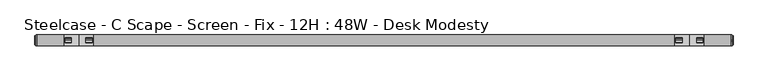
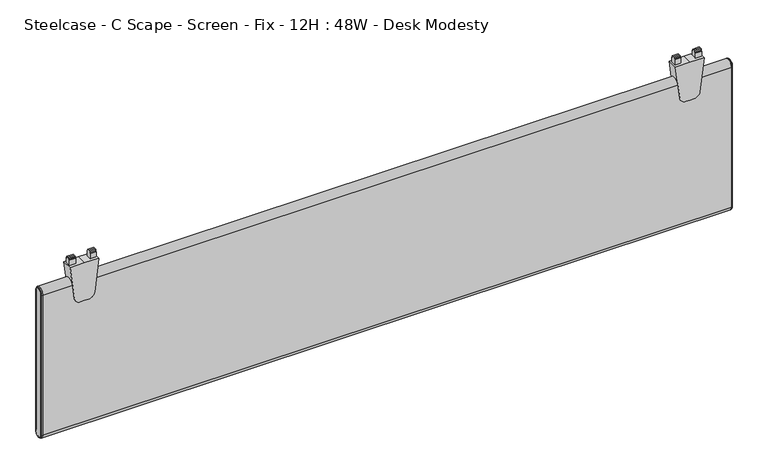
"""IFC4 building model written with IfcOpenShell, lengths in millimetres: furniture geometry, Steelcase - C Scape - Screen - Fix - 12H : 48W - Desk Modesty."""

import ifcopenshell
import ifcopenshell.guid

model = None  # the IFC model being written
_history = None  # IfcOwnerHistory: only IFC2X3 demands one
_inside = {}  # id of a spatial element -> (the spatial element, [elements in it])
_under = {}  # id of a project, library or spatial element -> (it, [spatial elements below it])
_declared = {}  # id of a project -> (the project, [libraries it declares])
_typed = {}  # id of a type object -> (the type object, [elements of that type])
_made_of = {}  # id of a material, layer set ... -> (it, [elements and type objects made of it])


def new_model(schema):
    """Start an empty IFC model of exactly this schema.

    Asked for "IFC4X3", IfcOpenShell would pick the latest addendum, in which some entities
    have other attributes; the version numbers below select the first issue.
    IFC2X3 requires an IfcOwnerHistory on every rooted entity: one is made here for all.
    """
    global model, _history
    if schema == "IFC4X3":
        model = ifcopenshell.file(schema_version=(4, 3, 0, 0))
    else:
        model = ifcopenshell.file(schema=schema)
    _inside.clear()
    _under.clear()
    _declared.clear()
    _typed.clear()
    _made_of.clear()
    _history = None
    if model.schema == "IFC2X3":
        org = make("IfcOrganization", Name="unknown")
        user = make(
            "IfcPersonAndOrganization",
            ThePerson=make("IfcPerson", FamilyName="unknown"),
            TheOrganization=org,
        )
        app = make(
            "IfcApplication",
            ApplicationDeveloper=org,
            Version="unknown",
            ApplicationFullName="unknown",
            ApplicationIdentifier="unknown",
        )
        _history = make(
            "IfcOwnerHistory",
            OwningUser=user,
            OwningApplication=app,
            ChangeAction="ADDED",
            CreationDate=0,
        )
    return model


def make(cls, **values):
    """One entity of the class cls with the attributes given. An attribute that is None is left unset."""
    return model.create_entity(
        cls, **{name: value for name, value in values.items() if value is not None}
    )


def rooted(cls, **values):
    """An entity with a GlobalId (a new one), such as an element, a storey or a relation."""
    return make(cls, GlobalId=ifcopenshell.guid.new(), OwnerHistory=_history, **values)


def si_unit(unit_type, name, prefix=None):
    """IfcSIUnit, for example si_unit("LENGTHUNIT", "METRE", prefix="MILLI")."""
    return make("IfcSIUnit", UnitType=unit_type, Prefix=prefix, Name=name)


def assignment(units):
    """IfcUnitAssignment: the units of a project."""
    return None if units is None else make("IfcUnitAssignment", Units=units)


def point(xyz):
    """IfcCartesianPoint."""
    return None if xyz is None else make("IfcCartesianPoint", Coordinates=xyz)


def direction(xyz):
    """IfcDirection."""
    return None if xyz is None else make("IfcDirection", DirectionRatios=xyz)


def frame(location, z_axis=None, x_axis=None):
    """IfcAxis2Placement3D, a coordinate frame: its origin and axes. An axis left out is left unset."""
    return make(
        "IfcAxis2Placement3D",
        Location=point(location),
        Axis=direction(z_axis),
        RefDirection=direction(x_axis),
    )


def frame_2d(location, x_axis=None):
    """IfcAxis2Placement2D, a coordinate frame in the plane: its origin and x axis."""
    return make(
        "IfcAxis2Placement2D", Location=point(location), RefDirection=direction(x_axis)
    )


def origin():
    """The frame at (0, 0, 0) with its axes left unset."""
    return frame((0.0, 0.0, 0.0))


def place(relative_to, where):
    """IfcLocalPlacement: puts the frame where relative to a parent placement (None: the world)."""
    return make(
        "IfcLocalPlacement", PlacementRelTo=relative_to, RelativePlacement=where
    )


def context(
    kind, dimensions, precision=None, world=None, true_north=None, identifier=None
):
    """IfcGeometricRepresentationContext, for example the 3D "Model" context."""
    return make(
        "IfcGeometricRepresentationContext",
        ContextIdentifier=identifier,
        ContextType=kind,
        CoordinateSpaceDimension=dimensions,
        Precision=precision,
        WorldCoordinateSystem=world,
        TrueNorth=true_north,
    )


def project(units=None, contexts=None):
    """IfcProject with its units and contexts."""
    return rooted(
        "IfcProject",
        Name="project",
        RepresentationContexts=contexts,
        UnitsInContext=assignment(units),
    )


def spatial(cls, under=None, at=None, **own):
    """A site, building, storey or space (cls), placed at a placement, below another one or the project."""
    s = rooted(cls, ObjectPlacement=at, **own)
    if under is not None:
        _under.setdefault(under.id(), (under, []))[1].append(s)
    return s


def polyline(points):
    """IfcPolyline through the points."""
    return make("IfcPolyline", Points=[point(p) for p in points])


def circle_curve(where, radius):
    """IfcCircle in the frame where."""
    return make("IfcCircle", Position=where, Radius=radius)


def ellipse_curve(where, semi_axis1, semi_axis2):
    """IfcEllipse in the frame where."""
    return make(
        "IfcEllipse", Position=where, SemiAxis1=semi_axis1, SemiAxis2=semi_axis2
    )


def trimmed(basis, trim1, trim2, sense, master):
    """IfcTrimmedCurve: the piece of a basis curve between two trims."""
    return make(
        "IfcTrimmedCurve",
        BasisCurve=basis,
        Trim1=trim1,
        Trim2=trim2,
        SenseAgreement=sense,
        MasterRepresentation=master,
    )


def segment(curve, same_sense, transition):
    """IfcCompositeCurveSegment."""
    return make(
        "IfcCompositeCurveSegment",
        Transition=transition,
        SameSense=same_sense,
        ParentCurve=curve,
    )


def composite_curve(segments, self_intersect=None):
    """IfcCompositeCurve: segments joined end to end."""
    return make("IfcCompositeCurve", Segments=segments, SelfIntersect=self_intersect)


def outline(outer, holes=None, kind="AREA"):
    """IfcArbitraryClosedProfileDef: a profile drawn as a closed curve; with holes, ...WithVoids."""
    if holes is None:
        return make("IfcArbitraryClosedProfileDef", ProfileType=kind, OuterCurve=outer)
    return make(
        "IfcArbitraryProfileDefWithVoids",
        ProfileType=kind,
        OuterCurve=outer,
        InnerCurves=holes,
    )


def extrude(swept, where, along, depth):
    """IfcExtrudedAreaSolid: the profile swept, set in the frame where, extruded along a direction by depth."""
    return make(
        "IfcExtrudedAreaSolid",
        SweptArea=swept,
        Position=where,
        ExtrudedDirection=direction(along),
        Depth=depth,
    )


def shape(context_of_items, identifier, shape_type, items):
    """IfcShapeRepresentation: the items that make up one representation, for example the "Body"."""
    return make(
        "IfcShapeRepresentation",
        ContextOfItems=context_of_items,
        RepresentationIdentifier=identifier,
        RepresentationType=shape_type,
        Items=items,
    )


def source(mapping_origin, context_of_items, identifier, shape_type, items):
    """IfcRepresentationMap: a shape defined once, which mapped items show again and again."""
    return make(
        "IfcRepresentationMap",
        MappingOrigin=mapping_origin,
        MappedRepresentation=shape(context_of_items, identifier, shape_type, items),
    )


def transform(
    local_origin,
    x_axis=None,
    y_axis=None,
    z_axis=None,
    scale=None,
    scale2=None,
    scale3=None,
    uniform=True,
):
    """IfcCartesianTransformationOperator3D, or its non-uniform kind. x_axis, y_axis, z_axis: its Axis1, 2, 3."""
    if uniform:
        return make(
            "IfcCartesianTransformationOperator3D",
            Axis1=direction(x_axis),
            Axis2=direction(y_axis),
            LocalOrigin=point(local_origin),
            Scale=scale,
            Axis3=direction(z_axis),
        )
    return make(
        "IfcCartesianTransformationOperator3DnonUniform",
        Axis1=direction(x_axis),
        Axis2=direction(y_axis),
        LocalOrigin=point(local_origin),
        Scale=scale,
        Axis3=direction(z_axis),
        Scale2=scale2,
        Scale3=scale3,
    )


def mapped(mapping_source, mapping_target):
    """IfcMappedItem: shows the shape of a source again, moved by a transform."""
    return make(
        "IfcMappedItem", MappingSource=mapping_source, MappingTarget=mapping_target
    )


def made_of(thing, what):
    """Note that an element or type object is made of a material, layer set ...; save() writes the relation."""
    if what is not None:
        _made_of.setdefault(what.id(), (what, []))[1].append(thing)
    return thing


def element(
    cls,
    number,
    at=None,
    inside=None,
    cuts=None,
    type_object=None,
    material=None,
    context=None,
    identifier="Body",
    shape_type=None,
    held_by="IfcProductDefinitionShape",
    body=None,
    shapes=None,
    **own,
):
    """One element of the class cls, such as IfcWall. Its Tag is "e" and its number.

    at: its placement. inside: the storey or other place that contains it. cuts: it is an
    opening in that element (IfcRelVoidsElement). A single representation is given by context,
    identifier, shape_type and body (its items); several are given by shapes. held_by: the class
    of the entity that holds the representations. save() writes the other relations.
    """
    e = rooted(cls, Tag="e%d" % number, ObjectPlacement=at, **own)
    if body is not None:
        shapes = [shape(context, identifier, shape_type, body)]
    if shapes is not None:
        e.Representation = make(held_by, Representations=shapes)
    if inside is not None:
        _inside.setdefault(inside.id(), (inside, []))[1].append(e)
    if cuts is not None:
        rooted(
            "IfcRelVoidsElement", RelatingBuildingElement=cuts, RelatedOpeningElement=e
        )
    if type_object is not None:
        _typed.setdefault(type_object.id(), (type_object, []))[1].append(e)
    return made_of(e, material)


def aggregate(whole, parts):
    """IfcRelAggregates: a whole, such as a stair, and the parts it consists of."""
    return rooted("IfcRelAggregates", RelatingObject=whole, RelatedObjects=parts)


def save(model, path):
    """Write the relations noted so far, then the file.

    IfcRelAggregates (storeys below a building ...), IfcRelContainedInSpatialStructure (elements
    in a storey), IfcRelDefinesByType, IfcRelAssociatesMaterial and IfcRelDeclares: one each for
    every whole, place, type object, material and project.
    """
    for whole, parts in _under.values():
        aggregate(whole, parts)
    for where, things in _inside.values():
        rooted(
            "IfcRelContainedInSpatialStructure",
            RelatedElements=things,
            RelatingStructure=where,
        )
    for kind, things in _typed.values():
        rooted("IfcRelDefinesByType", RelatedObjects=things, RelatingType=kind)
    for what, things in _made_of.values():
        rooted("IfcRelAssociatesMaterial", RelatedObjects=things, RelatingMaterial=what)
    for by, libraries in _declared.values():
        rooted("IfcRelDeclares", RelatingContext=by, RelatedDefinitions=libraries)
    model.write(path)


def plane_surface(at):
    """IfcPlane: the flat surface through the origin of the frame at, square to its z axis."""
    return make("IfcPlane", Position=at)


def cylinder_surface(at, radius):
    """IfcCylindricalSurface: all points at the distance radius from the z axis of the frame at."""
    return make("IfcCylindricalSurface", Position=at, Radius=radius)


def revolved_surface(curve, axis_point, axis_direction):
    """IfcSurfaceOfRevolution: the curve turned about the line through axis_point along axis_direction."""
    return make(
        "IfcSurfaceOfRevolution",
        SweptCurve=make("IfcArbitraryOpenProfileDef", ProfileType="CURVE", Curve=curve),
        AxisPosition=make("IfcAxis1Placement", Location=point(axis_point), Axis=direction(axis_direction)),
    )


def advanced_brep(points, edges, surfaces, faces):
    """IfcAdvancedBrep: a solid bounded by faces that lie on surfaces and meet in shared edges.

    An edge is (start, end): straight between two places in points (the first is 0);
    or (start, end, curve); or (start, end, curve, False) where it runs against its curve.
    A face is (place in surfaces, loops), or (place, loops, False) where it looks against
    its surface's normal. A loop lists edges by number (the first is 1), with a minus sign
    where the edge is run from its end to its start. The first loop is the outer one.
    """
    corners = [point(p) for p in points]
    vertices = [make("IfcVertexPoint", VertexGeometry=c) for c in corners]
    made = []
    for start, end, *more in edges:
        made.append(
            make(
                "IfcEdgeCurve",
                EdgeStart=vertices[start],
                EdgeEnd=vertices[end],
                EdgeGeometry=more[0] if more else make("IfcPolyline", Points=[corners[start], corners[end]]),
                SameSense=more[1] if len(more) > 1 else True,
            )
        )
    hull = []
    for where, loops, *sense in faces:
        bounds = []
        for j, loop in enumerate(loops):
            ring = [make("IfcOrientedEdge", EdgeElement=made[abs(k) - 1], Orientation=k > 0) for k in loop]
            bounds.append(
                make(
                    "IfcFaceOuterBound" if j == 0 else "IfcFaceBound",
                    Bound=make("IfcEdgeLoop", EdgeList=ring),
                    Orientation=True,
                )
            )
        hull.append(make("IfcAdvancedFace", Bounds=bounds, FaceSurface=surfaces[where], SameSense=sense[0] if sense else True))
    return make("IfcAdvancedBrep", Outer=make("IfcClosedShell", CfsFaces=hull))


def steelcase_c_scape_screen_fix_12h_48w_desk_modesty_aa4d267f(model_context):
    return source(origin(), model_context, "Body", "SolidModel", [
        extrude(outline(composite_curve([segment(polyline([(697.572888, 101.4730434), (697.572888, 76.2001674), (697.572888, 50.9272915), (637.2477579, 58.3341853)]), True, "CONTINUOUS"), segment(trimmed(circle_curve(frame_2d((638.5696282, 69.1001018)), 10.8467645), [point((637.2477579, 58.3341853))], [point((627.7228638, 69.1001018))], False, "CARTESIAN"), True, "CONTINUOUS"), segment(polyline([(627.7228638, 69.1001018), (627.7228638, 76.2001674), (627.7228638, 83.300233)]), True, "CONTINUOUS"), segment(trimmed(circle_curve(frame_2d((638.5696282, 83.300233)), 10.8467645), [point((627.7228638, 83.300233))], [point((637.2477579, 94.0661495))], False, "CARTESIAN"), True, "CONTINUOUS"), segment(polyline([(637.2477579, 94.0661495), (697.572888, 101.4730434)]), True, "CONTINUOUS")], self_intersect=False)), frame((0.0, -9.525, 0.0), z_axis=(0.0, 1.0, 0.0), x_axis=(0.0, 0.0, 1.0)), (0.0, 0.0, 1.0), 19.05),
        extrude(outline(polyline([(-4.5465975, 697.572888), (-4.5465975, 707.4788967), (-4.0139265, 708.3653252), (-2.9972008, 708.3653252), (-2.9972008, 710.6005812), (0.0, 710.692), (2.9972008, 710.6005812), (2.9972008, 708.3653252), (4.0139265, 708.3653252), (4.5465975, 707.4788967), (4.5465975, 697.572888), (0.0, 697.572888), (-4.5465975, 697.572888)])), frame((88.9267162, 0.0, 0.0), z_axis=(1.0, 0.0, 0.0), x_axis=(0.0, 1.0, 0.0)), (0.0, 0.0, 1.0), 10.7813187),
        extrude(outline(polyline([(-4.5465975, 697.572888), (-4.5465975, 707.4788967), (-4.0139265, 708.3653252), (-2.9972008, 708.3653252), (-2.9972008, 710.6005812), (0.0, 710.692), (2.9972008, 710.6005812), (2.9972008, 708.3653252), (4.0139265, 708.3653252), (4.5465975, 707.4788967), (4.5465975, 697.572888), (0.0, 697.572888), (-4.5465975, 697.572888)])), frame((52.6923, 0.0, 0.0), z_axis=(1.0, 0.0, 0.0), x_axis=(0.0, 1.0, 0.0)), (0.0, 0.0, 1.0), 10.7813187),
        extrude(outline(composite_curve([segment(polyline([(697.572888, 1167.5107132), (697.572888, 1142.2378372), (697.572888, 1116.9649612), (637.2477579, 1124.3718551)]), True, "CONTINUOUS"), segment(trimmed(circle_curve(frame_2d((638.5696282, 1135.1377716)), 10.8467645), [point((637.2477579, 1124.3718551))], [point((627.7228638, 1135.1377716))], False, "CARTESIAN"), True, "CONTINUOUS"), segment(polyline([(627.7228638, 1135.1377716), (627.7228638, 1142.2378372), (627.7228638, 1149.3379028)]), True, "CONTINUOUS"), segment(trimmed(circle_curve(frame_2d((638.5696282, 1149.3379028)), 10.8467645), [point((627.7228638, 1149.3379028))], [point((637.2477579, 1160.1038193))], False, "CARTESIAN"), True, "CONTINUOUS"), segment(polyline([(637.2477579, 1160.1038193), (697.572888, 1167.5107132)]), True, "CONTINUOUS")], self_intersect=False)), frame((0.0, -9.525, 0.0), z_axis=(0.0, 1.0, 0.0), x_axis=(0.0, 0.0, 1.0)), (0.0, 0.0, 1.0), 19.05),
        extrude(outline(polyline([(-4.5465975, 697.572888), (-4.5465975, 707.4788967), (-4.0139265, 708.3653252), (-2.9972008, 708.3653252), (-2.9972008, 710.6005812), (0.0, 710.692), (2.9972008, 710.6005812), (2.9972008, 708.3653252), (4.0139265, 708.3653252), (4.5465975, 707.4788967), (4.5465975, 697.572888), (0.0, 697.572888), (-4.5465975, 697.572888)])), frame((1154.964386, 0.0, 0.0), z_axis=(1.0, 0.0, 0.0), x_axis=(0.0, 1.0, 0.0)), (0.0, 0.0, 1.0), 10.7813187),
        extrude(outline(polyline([(-4.5465975, 697.572888), (-4.5465975, 707.4788967), (-4.0139265, 708.3653252), (-2.9972008, 708.3653252), (-2.9972008, 710.6005812), (0.0, 710.692), (2.9972008, 710.6005812), (2.9972008, 708.3653252), (4.0139265, 708.3653252), (4.5465975, 707.4788967), (4.5465975, 697.572888), (0.0, 697.572888), (-4.5465975, 697.572888)])), frame((1118.7299698, 0.0, 0.0), z_axis=(1.0, 0.0, 0.0), x_axis=(0.0, 1.0, 0.0)), (0.0, 0.0, 1.0), 10.7813187),
        advanced_brep(
        [(1215.6486613, -9.525, 663.067), (1215.6486613, 9.525, 663.067), (1215.6486613, 9.525, 402.717), (1215.6486613, -9.525, 402.717), (1218.4426613, 7.4929583, 663.067), (1218.4426613, -7.4929583, 663.067), (1218.4426613, -7.4929583, 402.717), (1218.4426613, 7.4929583, 402.717), (1217.9346545, -8.0009651, 663.067), (1217.9346545, 8.0009651, 663.067), (1216.6646613, 8.0009651, 663.067), (1216.6646613, -8.0009651, 663.067), (1216.6646613, -8.8204932, 663.067), (1216.6646613, 8.8204932, 663.067), (1216.6646613, -8.0009651, 402.717), (1217.9346545, -8.0009651, 402.717), (1216.6646613, -8.8204932, 402.717), (1216.6646613, 8.0009651, 402.717), (1217.9346545, 8.0009651, 402.717), (1216.6646613, 8.8204932, 402.717)],
        [
            (0, 1, circle_curve(frame((1215.6486613, 0.0, 663.067), z_axis=(-1.0, 0.0, 0.0), x_axis=(0.0, 1.0, 0.0)), 9.525)),
            (1, 2),
            (2, 3, circle_curve(frame((1215.6486613, 0.0, 402.717), z_axis=(-1.0, 0.0, 0.0), x_axis=(0.0, -1.0, 0.0)), 9.525)),
            (3, 0),
            (4, 5, circle_curve(frame((1218.4426613, 0.0, 663.067), z_axis=(1.0, 0.0, 0.0), x_axis=(0.0, 1.0, 0.0)), 7.4929583)),
            (5, 6),
            (6, 7, circle_curve(frame((1218.4426613, 0.0, 402.717), z_axis=(1.0, 0.0, 0.0), x_axis=(0.0, -1.0, 0.0)), 7.4929583)),
            (7, 4),
            (8, 9, circle_curve(frame((1217.9346545, 0.0, 663.067), z_axis=(-1.0, 0.0, 0.0), x_axis=(0.0, 1.0, 0.0)), 8.0009651)),
            (9, 10),
            (10, 11, circle_curve(frame((1216.6646613, 0.0, 663.067), z_axis=(1.0, 0.0, 0.0), x_axis=(0.0, 1.0, 0.0)), 8.0009651)),
            (11, 8),
            (8, 5, circle_curve(frame((1217.9346545, -7.4929583, 663.067), z_axis=(0.0, 0.0, 1.0), x_axis=(0.0, -1.0, 0.0)), 0.5080068)),
            (4, 9, circle_curve(frame((1217.9346545, 7.4929583, 663.067), z_axis=(0.0, 0.0, 1.0), x_axis=(0.0, 1.0, 0.0)), 0.5080068)),
            (12, 13, circle_curve(frame((1216.6646613, 0.0, 663.067), z_axis=(-1.0, 0.0, 0.0), x_axis=(0.0, 1.0, 0.0)), 8.8204932)),
            (13, 1, circle_curve(frame((1215.5806211, 8.3420139, 663.067), z_axis=(0.0, 0.0, 1.0), x_axis=(0.0, 1.0, 0.0)), 1.1849411)),
            (0, 12, circle_curve(frame((1215.5806211, -8.3420139, 663.067), z_axis=(0.0, 0.0, 1.0), x_axis=(0.0, -1.0, 0.0)), 1.1849411)),
            (11, 14),
            (14, 15),
            (15, 8),
            (15, 6, circle_curve(frame((1217.9346545, -7.4929583, 402.717), z_axis=(0.0, 0.0, 1.0), x_axis=(0.0, -1.0, 0.0)), 0.5080068)),
            (3, 16, circle_curve(frame((1215.5806211, -8.3420139, 402.717), z_axis=(0.0, 0.0, 1.0), x_axis=(0.0, -1.0, 0.0)), 1.1849411)),
            (16, 12),
            (14, 17, circle_curve(frame((1216.6646613, 0.0, 402.717), z_axis=(1.0, 0.0, 0.0), x_axis=(0.0, -1.0, 0.0)), 8.0009651)),
            (17, 18),
            (18, 15, circle_curve(frame((1217.9346545, 0.0, 402.717), z_axis=(-1.0, 0.0, 0.0), x_axis=(0.0, -1.0, 0.0)), 8.0009651)),
            (18, 7, circle_curve(frame((1217.9346545, 7.4929583, 402.717), z_axis=(0.0, 0.0, -1.0), x_axis=(0.0, 1.0, 0.0)), 0.5080068)),
            (2, 19, circle_curve(frame((1215.5806211, 8.3420139, 402.717), z_axis=(0.0, 0.0, -1.0), x_axis=(0.0, 1.0, 0.0)), 1.1849411)),
            (19, 16, circle_curve(frame((1216.6646613, 0.0, 402.717), z_axis=(-1.0, 0.0, 0.0), x_axis=(0.0, -1.0, 0.0)), 8.8204932)),
            (9, 18),
            (17, 10),
            (13, 19),
        ],
        [
            plane_surface(frame((1215.6486613, -6.3509705, 663.067), z_axis=(-1.0, 0.0, 0.0), x_axis=(0.0, 0.0, 1.0))),
            plane_surface(frame((1218.4426613, -6.3509705, 663.067), z_axis=(1.0, 0.0, 0.0), x_axis=(0.0, 0.0, -1.0))),
            cylinder_surface(frame((1215.6486613, 0.0, 663.067), z_axis=(1.0, 0.0, 0.0), x_axis=(0.0, 1.0, 0.0)), 8.0009651),
            revolved_surface(trimmed(ellipse_curve(frame((1217.9346545, 7.4929583, 663.067), z_axis=(0.0, 0.0, -1.0), x_axis=(0.0, 1.0, 0.0)), 0.5080068, 0.5080068), [point((1217.9346545, 8.0009651, 663.067))], [point((1218.4426613, 7.4929583, 663.067))], True, "CARTESIAN"), (1215.6486613, 0.0, 663.067), (1.0, 0.0, 0.0)),
            revolved_surface(trimmed(ellipse_curve(frame((1215.5806211, 8.3420139, 663.067), z_axis=(0.0, 0.0, -1.0), x_axis=(0.0, 1.0, 0.0)), 1.1849411, 1.1849411), [point((1215.6486613, 9.525, 663.067))], [point((1216.6646613, 8.8204932, 663.067))], True, "CARTESIAN"), (1215.6486613, 0.0, 663.067), (1.0, 0.0, 0.0)),
            plane_surface(frame((1216.6646613, -8.0009651, 663.067), z_axis=(0.0, -1.0, 0.0), x_axis=(0.0, 0.0, -1.0))),
            cylinder_surface(frame((1217.9346545, -7.4929583, 663.067), z_axis=(0.0, 0.0, 1.0), x_axis=(0.0, -1.0, 0.0)), 0.5080068),
            cylinder_surface(frame((1215.5806211, -8.3420139, 663.067), z_axis=(0.0, 0.0, 1.0), x_axis=(0.0, -1.0, 0.0)), 1.1849411),
            cylinder_surface(frame((1215.6486613, 0.0, 402.717), z_axis=(1.0, 0.0, 0.0), x_axis=(0.0, -1.0, 0.0)), 8.0009651),
            revolved_surface(trimmed(ellipse_curve(frame((1217.9346545, -7.4929583, 402.717), z_axis=(0.0, 0.0, 1.0), x_axis=(0.0, -1.0, 0.0)), 0.5080068, 0.5080068), [point((1217.9346545, -8.0009651, 402.717))], [point((1218.4426613, -7.4929583, 402.717))], True, "CARTESIAN"), (1215.6486613, 0.0, 402.717), (1.0, 0.0, 0.0)),
            revolved_surface(trimmed(ellipse_curve(frame((1215.5806211, -8.3420139, 402.717), z_axis=(0.0, 0.0, 1.0), x_axis=(0.0, -1.0, 0.0)), 1.1849411, 1.1849411), [point((1215.6486613, -9.525, 402.717))], [point((1216.6646613, -8.8204932, 402.717))], True, "CARTESIAN"), (1215.6486613, 0.0, 402.717), (1.0, 0.0, 0.0)),
            plane_surface(frame((1216.6646613, 8.0009651, 402.717), z_axis=(0.0, 1.0, 0.0), x_axis=(0.0, 0.0, 1.0))),
            cylinder_surface(frame((1217.9346545, 7.4929583, 402.717), z_axis=(0.0, 0.0, -1.0), x_axis=(0.0, 1.0, 0.0)), 0.5080068),
            cylinder_surface(frame((1215.5806211, 8.3420139, 402.717), z_axis=(0.0, 0.0, -1.0), x_axis=(0.0, 1.0, 0.0)), 1.1849411),
            plane_surface(frame((1216.6646613, 8.8204932, 402.717), z_axis=(1.0, 0.0, 0.0), x_axis=(0.0, 0.0, 1.0))),
        ],
        [
            (0, [[1, 2, 3, 4]]),
            (1, [[5, 6, 7, 8]]),
            (2, [[9, 10, 11, 12]]),
            (3, [[-9, 13, -5, 14]]),
            (4, [[15, 16, -1, 17]]),
            (5, [[-12, 18, 19, 20]]),
            (6, [[-13, -20, 21, -6]]),
            (7, [[-17, -4, 22, 23]]),
            (8, [[-19, 24, 25, 26]]),
            (9, [[-21, -26, 27, -7]]),
            (10, [[-22, -3, 28, 29]]),
            (11, [[-10, 30, -25, 31]]),
            (12, [[-14, -8, -27, -30]]),
            (13, [[-16, 32, -28, -2]]),
            (14, [[-15, -23, -29, -32], [-11, -31, -24, -18]]),
        ],
    ),
        advanced_brep(
        [(2.7940155, 9.525, 663.067), (2.7940155, -9.525, 663.067), (2.7940155, -9.525, 402.717), (2.7940155, 9.525, 402.717), (0.0, -7.4929583, 663.067), (0.0, 7.4929583, 663.067), (0.0, 7.4929583, 402.717), (0.0, -7.4929583, 402.717), (1.778, 8.8204932, 663.067), (1.778, -8.8204932, 663.067), (0.5080068, -8.0009651, 663.067), (0.5080068, 8.0009651, 663.067), (1.778, -8.0009651, 663.067), (1.778, 8.0009651, 663.067), (1.778, -8.8204932, 402.717), (0.5080068, -8.0009651, 402.717), (1.778, -8.0009651, 402.717), (1.778, 8.8204932, 402.717), (0.5080068, 8.0009651, 402.717), (1.778, 8.0009651, 402.717)],
        [
            (0, 1, circle_curve(frame((2.7940155, 0.0, 663.067), z_axis=(1.0, 0.0, 0.0), x_axis=(0.0, 1.0, 0.0)), 9.525)),
            (1, 2),
            (2, 3, circle_curve(frame((2.7940155, 0.0, 402.717), z_axis=(1.0, 0.0, 0.0), x_axis=(0.0, -1.0, 0.0)), 9.525)),
            (3, 0),
            (4, 5, circle_curve(frame((0.0, 0.0, 663.067), z_axis=(-1.0, 0.0, 0.0), x_axis=(0.0, 1.0, 0.0)), 7.4929583)),
            (5, 6),
            (6, 7, circle_curve(frame((0.0, 0.0, 402.717), z_axis=(-1.0, 0.0, 0.0), x_axis=(0.0, -1.0, 0.0)), 7.4929583)),
            (7, 4),
            (0, 8, circle_curve(frame((2.8620402, 8.3420139, 663.067), z_axis=(0.0, 0.0, 1.0), x_axis=(0.0, -1.0, 0.0)), 1.1849411)),
            (8, 9, circle_curve(frame((1.778, 0.0, 663.067), z_axis=(1.0, 0.0, 0.0), x_axis=(0.0, 1.0, 0.0)), 8.8204932)),
            (9, 1, circle_curve(frame((2.8620402, -8.3420139, 663.067), z_axis=(0.0, 0.0, 1.0), x_axis=(0.0, 1.0, 0.0)), 1.1849411)),
            (10, 11, circle_curve(frame((0.5080068, 0.0, 663.067), z_axis=(-1.0, 0.0, 0.0), x_axis=(0.0, 1.0, 0.0)), 8.0009651)),
            (11, 5, circle_curve(frame((0.5080068, 7.4929583, 663.067), z_axis=(0.0, 0.0, 1.0), x_axis=(0.0, -1.0, 0.0)), 0.5080068)),
            (4, 10, circle_curve(frame((0.5080068, -7.4929583, 663.067), z_axis=(0.0, 0.0, 1.0), x_axis=(0.0, 1.0, 0.0)), 0.5080068)),
            (10, 12),
            (12, 13, circle_curve(frame((1.778, 0.0, 663.067), z_axis=(-1.0, 0.0, 0.0), x_axis=(0.0, 1.0, 0.0)), 8.0009651)),
            (13, 11),
            (9, 14),
            (14, 2, circle_curve(frame((2.8620402, -8.3420139, 402.717), z_axis=(0.0, 0.0, 1.0), x_axis=(0.0, 1.0, 0.0)), 1.1849411)),
            (7, 15, circle_curve(frame((0.5080068, -7.4929583, 402.717), z_axis=(0.0, 0.0, 1.0), x_axis=(0.0, 1.0, 0.0)), 0.5080068)),
            (15, 10),
            (15, 16),
            (16, 12),
            (14, 17, circle_curve(frame((1.778, 0.0, 402.717), z_axis=(1.0, 0.0, 0.0), x_axis=(0.0, -1.0, 0.0)), 8.8204932)),
            (17, 3, circle_curve(frame((2.8620402, 8.3420139, 402.717), z_axis=(0.0, 0.0, -1.0), x_axis=(0.0, -1.0, 0.0)), 1.1849411)),
            (6, 18, circle_curve(frame((0.5080068, 7.4929583, 402.717), z_axis=(0.0, 0.0, -1.0), x_axis=(0.0, -1.0, 0.0)), 0.5080068)),
            (18, 15, circle_curve(frame((0.5080068, 0.0, 402.717), z_axis=(-1.0, 0.0, 0.0), x_axis=(0.0, -1.0, 0.0)), 8.0009651)),
            (18, 19),
            (19, 16, circle_curve(frame((1.778, 0.0, 402.717), z_axis=(-1.0, 0.0, 0.0), x_axis=(0.0, -1.0, 0.0)), 8.0009651)),
            (8, 17),
            (19, 13),
            (11, 18),
        ],
        [
            plane_surface(frame((2.7940155, -6.3509705, 663.067), z_axis=(1.0, 0.0, 0.0), x_axis=(0.0, 0.0, -1.0))),
            plane_surface(frame((0.0, -6.3509705, 663.067), z_axis=(-1.0, 0.0, 0.0), x_axis=(0.0, 0.0, 1.0))),
            revolved_surface(trimmed(ellipse_curve(frame((2.8620402, 8.3420139, 663.067), z_axis=(0.0, 0.0, -1.0), x_axis=(0.0, -1.0, 0.0)), 1.1849411, 1.1849411), [point((1.778, 8.8204932, 663.067))], [point((2.794, 9.525, 663.067))], True, "CARTESIAN"), (2.794, 0.0, 663.067), (1.0, 0.0, 0.0)),
            revolved_surface(trimmed(ellipse_curve(frame((0.5080068, 7.4929583, 663.067), z_axis=(0.0, 0.0, -1.0), x_axis=(0.0, -1.0, 0.0)), 0.5080068, 0.5080068), [point((0.0, 7.4929583, 663.067))], [point((0.5080068, 8.0009651, 663.067))], True, "CARTESIAN"), (2.794, 0.0, 663.067), (1.0, 0.0, 0.0)),
            cylinder_surface(frame((2.794, 0.0, 663.067), z_axis=(1.0, 0.0, 0.0), x_axis=(0.0, 1.0, 0.0)), 8.0009651),
            cylinder_surface(frame((2.8620402, -8.3420139, 663.067), z_axis=(0.0, 0.0, 1.0), x_axis=(0.0, 1.0, 0.0)), 1.1849411),
            cylinder_surface(frame((0.5080068, -7.4929583, 663.067), z_axis=(0.0, 0.0, 1.0), x_axis=(0.0, 1.0, 0.0)), 0.5080068),
            plane_surface(frame((0.5080068, -8.0009651, 663.067), z_axis=(0.0, -1.0, 0.0), x_axis=(0.0, 0.0, -1.0))),
            revolved_surface(trimmed(ellipse_curve(frame((2.8620402, -8.3420139, 402.717), z_axis=(0.0, 0.0, 1.0), x_axis=(0.0, 1.0, 0.0)), 1.1849411, 1.1849411), [point((1.778, -8.8204932, 402.717))], [point((2.794, -9.525, 402.717))], True, "CARTESIAN"), (2.794, 0.0, 402.717), (1.0, 0.0, 0.0)),
            revolved_surface(trimmed(ellipse_curve(frame((0.5080068, -7.4929583, 402.717), z_axis=(0.0, 0.0, 1.0), x_axis=(0.0, 1.0, 0.0)), 0.5080068, 0.5080068), [point((0.0, -7.4929583, 402.717))], [point((0.5080068, -8.0009651, 402.717))], True, "CARTESIAN"), (2.794, 0.0, 402.717), (1.0, 0.0, 0.0)),
            cylinder_surface(frame((2.794, 0.0, 402.717), z_axis=(1.0, 0.0, 0.0), x_axis=(0.0, -1.0, 0.0)), 8.0009651),
            plane_surface(frame((1.778, 8.0009651, 402.717), z_axis=(-1.0, 0.0, 0.0), x_axis=(0.0, 0.0, 1.0))),
            cylinder_surface(frame((2.8620402, 8.3420139, 402.717), z_axis=(0.0, 0.0, -1.0), x_axis=(0.0, -1.0, 0.0)), 1.1849411),
            cylinder_surface(frame((0.5080068, 7.4929583, 402.717), z_axis=(0.0, 0.0, -1.0), x_axis=(0.0, -1.0, 0.0)), 0.5080068),
            plane_surface(frame((0.5080068, 8.0009651, 402.717), z_axis=(0.0, 1.0, 0.0), x_axis=(0.0, 0.0, 1.0))),
        ],
        [
            (0, [[1, 2, 3, 4]]),
            (1, [[5, 6, 7, 8]]),
            (2, [[-1, 9, 10, 11]]),
            (3, [[12, 13, -5, 14]]),
            (4, [[-12, 15, 16, 17]]),
            (5, [[-11, 18, 19, -2]]),
            (6, [[-14, -8, 20, 21]]),
            (7, [[-15, -21, 22, 23]]),
            (8, [[-19, 24, 25, -3]]),
            (9, [[-20, -7, 26, 27]]),
            (10, [[-22, -27, 28, 29]]),
            (11, [[-10, 30, -24, -18], [-16, -23, -29, 31]]),
            (12, [[-9, -4, -25, -30]]),
            (13, [[-13, 32, -26, -6]]),
            (14, [[-17, -31, -28, -32]]),
        ],
    ),
        extrude(outline(composite_curve([segment(trimmed(circle_curve(frame_2d((0.0, 663.067)), 9.525), [point((-9.525, 663.067))], [point((9.525, 663.067))], False, "CARTESIAN"), True, "CONTINUOUS"), segment(polyline([(9.525, 663.067), (9.525, 402.717)]), True, "CONTINUOUS"), segment(trimmed(circle_curve(frame_2d((0.0, 402.717)), 9.525), [point((9.525, 402.717))], [point((-9.525, 402.717))], False, "CARTESIAN"), True, "CONTINUOUS"), segment(polyline([(-9.525, 402.717), (-9.525, 663.067)]), True, "CONTINUOUS")], self_intersect=False)), frame((2.794, 0.0, 0.0), z_axis=(1.0, 0.0, 0.0), x_axis=(0.0, 1.0, 0.0)), (0.0, 0.0, 1.0), 1212.8546613),
    ])


if __name__ == "__main__":
    model = new_model("IFC4")
    model_context = context("Model", 3, world=origin())
    ifc_project = project(units=[si_unit("LENGTHUNIT", "METRE", prefix="MILLI")], contexts=[model_context])
    site = spatial("IfcSite", under=ifc_project)
    building = spatial("IfcBuilding", under=site)
    placement = place(None, origin())
    steelcase_c_scape_screen_fix_12h_48w_desk_modesty_shape = steelcase_c_scape_screen_fix_12h_48w_desk_modesty_aa4d267f(model_context)
    element("IfcFurniture", 1, ObjectType="Steelcase - C Scape - Screen - Fix - 12H : 48W - Desk Modesty", at=placement, inside=building, context=model_context, shape_type="MappedRepresentation", body=[
        mapped(steelcase_c_scape_screen_fix_12h_48w_desk_modesty_shape, transform((0.0, 0.0, 0.0), x_axis=(1.0, 0.0, 0.0), y_axis=(0.0, 1.0, 0.0), z_axis=(0.0, 0.0, 1.0))),
    ])
    save(model, "model.ifc")
